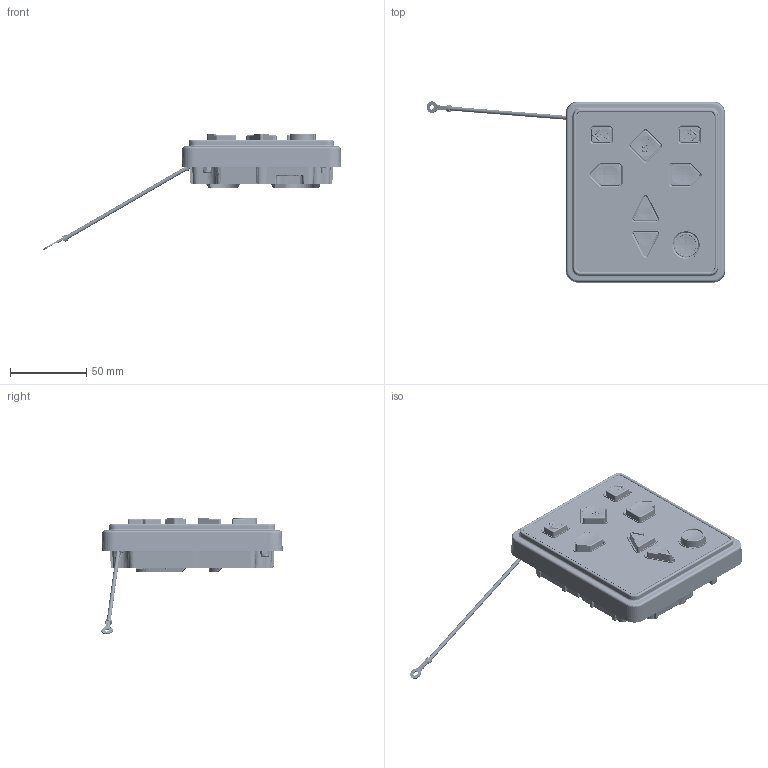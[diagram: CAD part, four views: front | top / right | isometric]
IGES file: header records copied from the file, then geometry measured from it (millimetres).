
Start section: SolidWorks IGES file using NURBS representation for surfaces
Global section: file name: C:\Users\anthonyc\Desktop\EZ08-22301~1.IGS; native system: SolidWorks 2018; preprocessor: SolidWorks 2018; author: AnthonyC; date: 190517.170540; units: millimetre
Bounding box: 195.37 x 118.68 x 76.16 mm (x, y, z)
Surface area: 95311.7 mm2 (no closed solid volume)
Topology: 0 solids, 0 shells, 4510 faces, 39482 edges, 39163 vertices
Faces by surface type: bspline 4510
